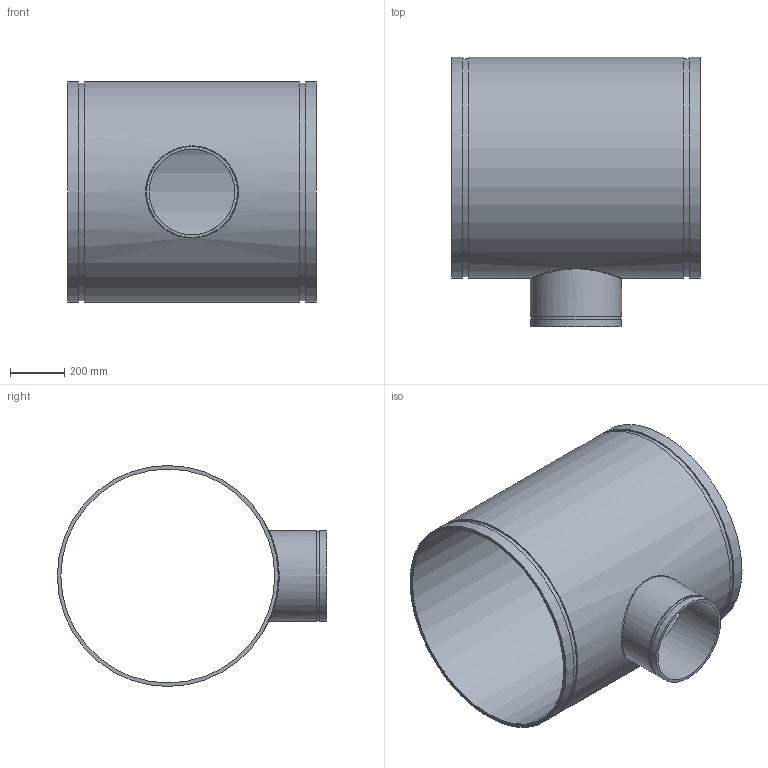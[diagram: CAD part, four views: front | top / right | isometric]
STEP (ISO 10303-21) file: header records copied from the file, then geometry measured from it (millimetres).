
FILE_DESCRIPTION(/* description */ ('VIC REDUCING TEE No 25-C','CAx-IF Rec.Pracs.---Representation and Presentation of Product Manufacturing Information (PMI)---4.0---2014-10-13'),/* implementation_level */ '2;1');
FILE_NAME(/* name */ 'C:\Users\Vjadhav\AppData\Roaming\Autodesk\ApplicationPlugins\Back Up\Victaulic_AWWA_Tee Reducing_No 25-C (DRG)\Victaulic_AWWA_Tee Reducing_No 25-C (DRG)_30.0x12.0 (750x300).stp',/* time_stamp */ '2020-08-18T18:19:14+06:00',/* author */ ('CORINNE GRAY'),/* organization */ ('Victaulic'),/* preprocessor_version */ 'ST-DEVELOPER v17.2',/* originating_system */ 'Autodesk Inventor 2019',/* authorisation */ '');
FILE_SCHEMA (('AP242_MANAGED_MODEL_BASED_3D_ENGINEERING_MIM_LF { 1 0 10303 442 1 1 4 }'));
Length unit declared in the file: inch
Products named in the file (1): 25C-30.0x12.0
Bounding box: 914.4 x 990.6 x 812.8 mm (x, y, z)
Volume: 30155253.6 mm3; surface area: 4975124.2 mm2
Topology: 1 solids, 1 shells, 20 faces, 44 edges, 33 vertices
Faces by surface type: cylinder 10, plane 9, bspline 1
Full cylindrical faces by diameter (mm): 314.96 x1, 327.812 x1, 335.28 x2, 786.892 x1, 801.37 x2, 812.8 x3
Entity records: 1010 total; most frequent: CARTESIAN_POINT 386, DIRECTION 135, ORIENTED_EDGE 90, AXIS2_PLACEMENT_3D 62, EDGE_CURVE 45, VERTEX_POINT 34, EDGE_LOOP 31, CIRCLE 29
